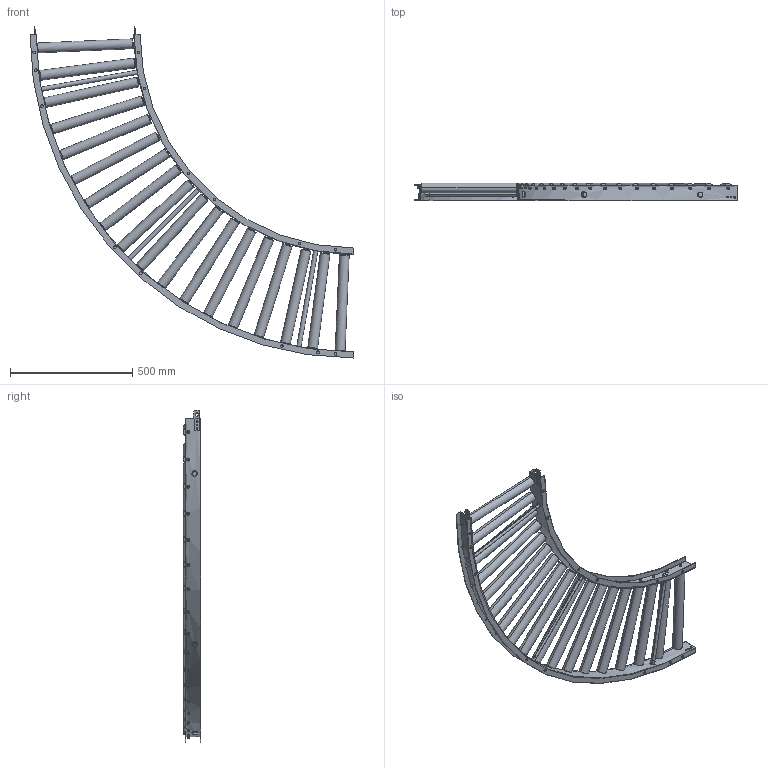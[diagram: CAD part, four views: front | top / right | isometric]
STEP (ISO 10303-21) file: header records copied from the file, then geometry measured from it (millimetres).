
FILE_DESCRIPTION (( 'STEP AP203' ), '1' );
FILE_NAME ('SJR-4023S_C.step', '2024-03-02T05:11:02', ( '' ), ( '' ), 'SwSTEP 2.0', 'SolidWorks 2023', '' );
FILE_SCHEMA (( 'CONFIG_CONTROL_DESIGN' ));
Length unit declared in the file: millimetre
Products named in the file (1): SJR-4023S_C
Bounding box: 1325 x 71.05 x 1358.22 mm (x, y, z)
Volume: 9994378.6 mm3; surface area: 2344514.8 mm2
Topology: 55 solids, 55 shells, 1122 faces, 2802 edges, 1832 vertices
Faces by surface type: plane 584, cylinder 430, torus 72, cone 36
Entity records: 38947 total; most frequent: CARTESIAN_POINT 11257, DIRECTION 5848, ORIENTED_EDGE 5604, EDGE_CURVE 2802, AXIS2_PLACEMENT_3D 2235, VERTEX_POINT 1832, EDGE_LOOP 1390, LINE 1378
